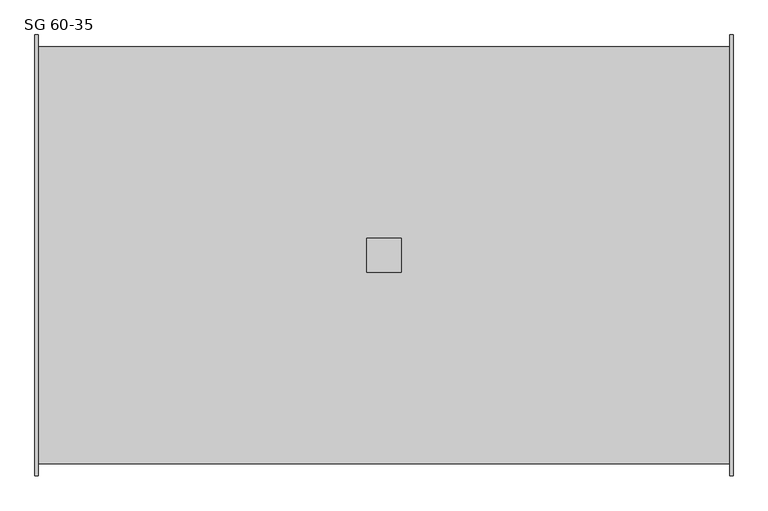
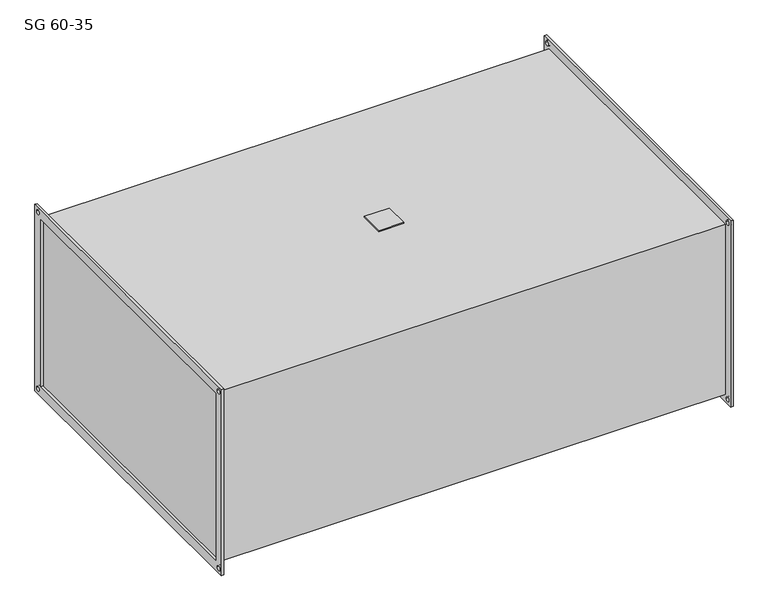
"""IFC4 building model written with IfcOpenShell, lengths in millimetres: damper geometry, KORF_Шумоглушитель_SG : SG 60-35."""

from ifc_helpers import new_model, si_unit, point, frame, frame_2d, origin, place, context, project, spatial, polyline, circle_curve, trimmed, segment, composite_curve, outline, extrude, source, transform, mapped, element, save


def sg_60_35_a4c04428(model_context):
    return source(origin(), model_context, "Body", "SweptSolid", [
        extrude(outline(polyline([(482.0, -25.0), (482.0, 25.0), (532.0, 25.0), (532.0, -25.0), (482.0, -25.0)])), frame((0.0, 0.0, 178.0), z_axis=(0.0, 0.0, 1.0), x_axis=(1.0, 0.0, 0.0)), (0.0, 0.0, 1.0), 2.0),
        extrude(outline(polyline([(-320.0, 195.0), (320.0, 195.0), (320.0, -195.0), (-320.0, -195.0), (-320.0, 195.0)]), holes=[polyline([(-300.0, 175.0), (-300.0, -175.0), (300.0, -175.0), (300.0, 175.0), (-300.0, 175.0)]), composite_curve([segment(trimmed(circle_curve(frame_2d((310.0, 185.0)), 4.5), [point((305.5, 185.0))], [point((314.5, 185.0))], True, "CARTESIAN"), True, "CONTINUOUS"), segment(trimmed(circle_curve(frame_2d((310.0, 185.0)), 4.5), [point((314.5, 185.0))], [point((305.5, 185.0))], True, "CARTESIAN"), True, "CONTINUOUS")], self_intersect=False), composite_curve([segment(trimmed(circle_curve(frame_2d((-310.0, 185.0)), 4.5), [point((-314.5, 185.0))], [point((-305.5, 185.0))], True, "CARTESIAN"), True, "CONTINUOUS"), segment(trimmed(circle_curve(frame_2d((-310.0, 185.0)), 4.5), [point((-305.5, 185.0))], [point((-314.5, 185.0))], True, "CARTESIAN"), True, "CONTINUOUS")], self_intersect=False), composite_curve([segment(trimmed(circle_curve(frame_2d((-310.0, -185.0)), 4.5), [point((-314.5, -185.0))], [point((-305.5, -185.0))], True, "CARTESIAN"), True, "CONTINUOUS"), segment(trimmed(circle_curve(frame_2d((-310.0, -185.0)), 4.5), [point((-305.5, -185.0))], [point((-314.5, -185.0))], True, "CARTESIAN"), True, "CONTINUOUS")], self_intersect=False), composite_curve([segment(trimmed(circle_curve(frame_2d((310.0, -185.0)), 4.5), [point((305.5, -185.0))], [point((314.5, -185.0))], True, "CARTESIAN"), True, "CONTINUOUS"), segment(trimmed(circle_curve(frame_2d((310.0, -185.0)), 4.5), [point((314.5, -185.0))], [point((305.5, -185.0))], True, "CARTESIAN"), True, "CONTINUOUS")], self_intersect=False)]), frame((1009.0, 0.0, 0.0), z_axis=(1.0, 0.0, 0.0), x_axis=(0.0, 1.0, 0.0)), (0.0, 0.0, 1.0), 5.0),
        extrude(outline(polyline([(-320.0, 195.0), (320.0, 195.0), (320.0, -195.0), (-320.0, -195.0), (-320.0, 195.0)]), holes=[polyline([(-300.0, 175.0), (-300.0, -175.0), (300.0, -175.0), (300.0, 175.0), (-300.0, 175.0)]), composite_curve([segment(trimmed(circle_curve(frame_2d((310.0, 185.0)), 4.5), [point((305.5, 185.0))], [point((314.5, 185.0))], True, "CARTESIAN"), True, "CONTINUOUS"), segment(trimmed(circle_curve(frame_2d((310.0, 185.0)), 4.5), [point((314.5, 185.0))], [point((305.5, 185.0))], True, "CARTESIAN"), True, "CONTINUOUS")], self_intersect=False), composite_curve([segment(trimmed(circle_curve(frame_2d((-310.0, 185.0)), 4.5), [point((-314.5, 185.0))], [point((-305.5, 185.0))], True, "CARTESIAN"), True, "CONTINUOUS"), segment(trimmed(circle_curve(frame_2d((-310.0, 185.0)), 4.5), [point((-305.5, 185.0))], [point((-314.5, 185.0))], True, "CARTESIAN"), True, "CONTINUOUS")], self_intersect=False), composite_curve([segment(trimmed(circle_curve(frame_2d((-310.0, -185.0)), 4.5), [point((-314.5, -185.0))], [point((-305.5, -185.0))], True, "CARTESIAN"), True, "CONTINUOUS"), segment(trimmed(circle_curve(frame_2d((-310.0, -185.0)), 4.5), [point((-305.5, -185.0))], [point((-314.5, -185.0))], True, "CARTESIAN"), True, "CONTINUOUS")], self_intersect=False), composite_curve([segment(trimmed(circle_curve(frame_2d((310.0, -185.0)), 4.5), [point((305.5, -185.0))], [point((314.5, -185.0))], True, "CARTESIAN"), True, "CONTINUOUS"), segment(trimmed(circle_curve(frame_2d((310.0, -185.0)), 4.5), [point((314.5, -185.0))], [point((305.5, -185.0))], True, "CARTESIAN"), True, "CONTINUOUS")], self_intersect=False)]), frame((0.0, 0.0, 0.0), z_axis=(1.0, 0.0, 0.0), x_axis=(0.0, 1.0, 0.0)), (0.0, 0.0, 1.0), 5.0),
        extrude(outline(polyline([(1009.0, 303.0), (1009.0, -303.0), (5.0, -303.0), (5.0, 303.0), (1009.0, 303.0)])), frame((0.0, 0.0, -178.0), z_axis=(0.0, 0.0, 1.0), x_axis=(1.0, 0.0, 0.0)), (0.0, 0.0, 1.0), 356.0),
    ])


if __name__ == "__main__":
    model = new_model("IFC4")
    model_context = context("Model", 3, world=origin())
    ifc_project = project(units=[si_unit("LENGTHUNIT", "METRE", prefix="MILLI")], contexts=[model_context])
    site = spatial("IfcSite", under=ifc_project)
    building = spatial("IfcBuilding", under=site)
    placement = place(None, origin())
    sg_60_35_shape = sg_60_35_a4c04428(model_context)
    element("IfcDamper", 1, ObjectType="KORF_Шумоглушитель_SG : SG 60-35", at=placement, inside=building, context=model_context, shape_type="MappedRepresentation", body=[
        mapped(sg_60_35_shape, transform((0.0, 0.0, 0.0), x_axis=(1.0, 0.0, 0.0), y_axis=(0.0, 1.0, 0.0), z_axis=(0.0, 0.0, 1.0))),
    ])
    save(model, "model.ifc")
